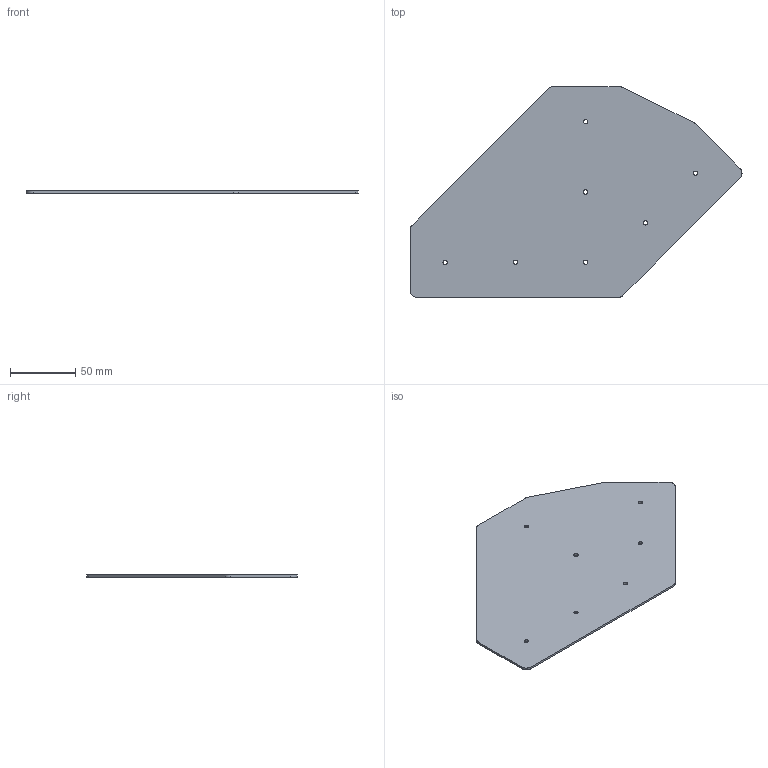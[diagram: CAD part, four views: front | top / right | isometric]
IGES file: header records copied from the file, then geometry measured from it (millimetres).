
Start section: SolidWorks IGES file using analytic representation for surfaces
Global section: file name: C:\Working\Gusset Convert\DRP-002-0009-02.igs; native system: SolidWorks 2010; preprocessor: SolidWorks 2010; author: mbush2; date: 100624.090216; units: inch
Bounding box: 255.04 x 161.93 x 1.59 mm (x, y, z)
Surface area: 58367.3 mm2 (no closed solid volume)
Topology: 0 solids, 0 shells, 30 faces, 414 edges, 414 vertices
Faces by surface type: revolution 21, bspline 9
